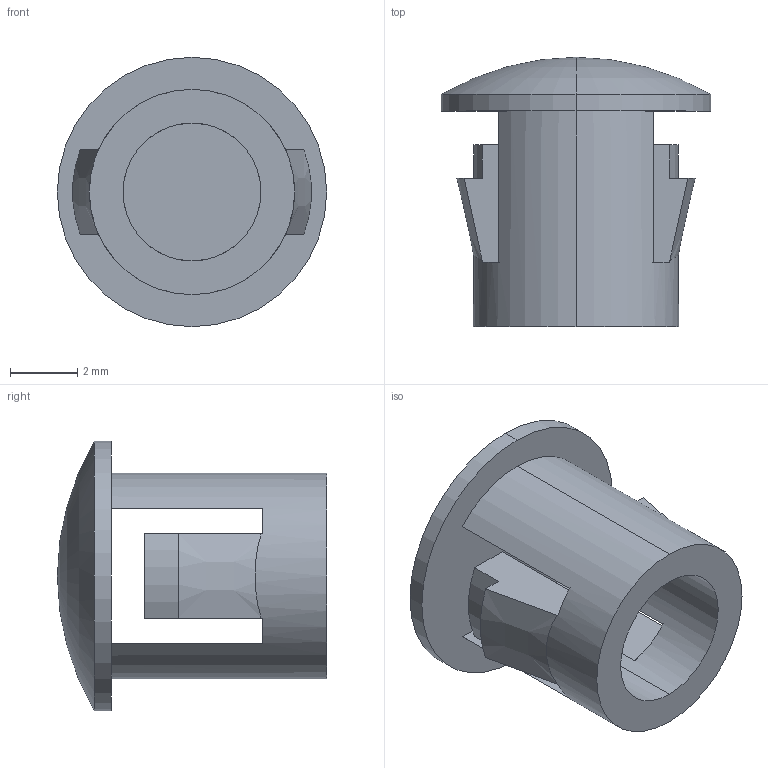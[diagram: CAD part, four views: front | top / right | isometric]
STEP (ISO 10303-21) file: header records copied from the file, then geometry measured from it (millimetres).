
FILE_DESCRIPTION (( 'STEP AP203' ), '1' );
FILE_NAME ('EBHP-1.STEP', '2013-08-03T04:34:36', ( 'SDS' ), ( 'SDS' ), 'SwSTEP 2.0', 'SolidWorks 2002296', '' );
FILE_SCHEMA (( 'CONFIG_CONTROL_DESIGN' ));
Length unit declared in the file: millimetre
Products named in the file (1): EBHP-1
Bounding box: 8 x 8 x 8 mm (x, y, z)
Volume: 134.9 mm3; surface area: 343.4 mm2
Topology: 1 solids, 1 shells, 30 faces, 88 edges, 57 vertices
Faces by surface type: plane 18, cylinder 8, bspline 2, torus 2
Entity records: 1117 total; most frequent: CARTESIAN_POINT 222, DIRECTION 176, ORIENTED_EDGE 172, EDGE_CURVE 86, AXIS2_PLACEMENT_3D 63, VERTEX_POINT 57, LINE 50, VECTOR 50
